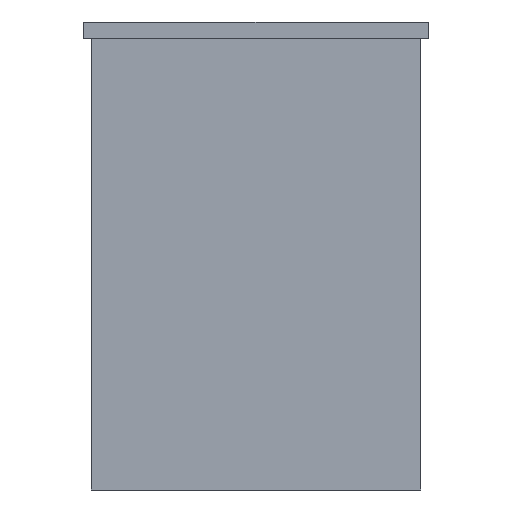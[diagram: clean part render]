
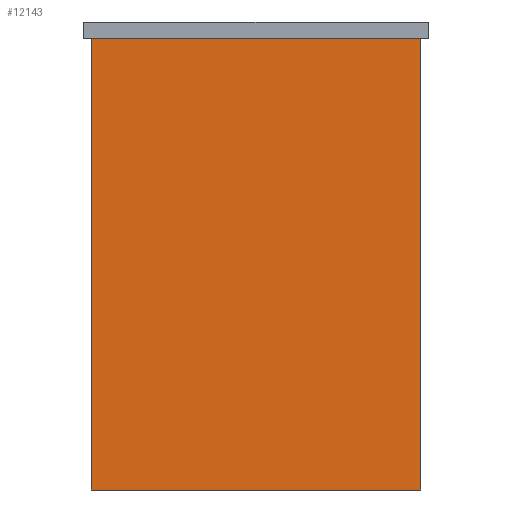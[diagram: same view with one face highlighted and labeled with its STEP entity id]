
A CAD part, front view. The second image highlights one B-rep face of the part: STEP entity #12143.
In plain terms, the highlighted planar face has unit normal (0, -1, 0).
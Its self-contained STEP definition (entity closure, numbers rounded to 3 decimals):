
#324 = CARTESIAN_POINT ( 'NONE',  ( -45.25, -21.6, -4.5 ) ) ;
#494 = VECTOR ( 'NONE', #11117, 1000. ) ;
#571 = CARTESIAN_POINT ( 'NONE',  ( -45.25, -21.6, -128.5 ) ) ;
#957 = DIRECTION ( 'NONE',  ( 0., 0., 1. ) ) ;
#1538 = DIRECTION ( 'NONE',  ( 0., -1., 0. ) ) ;
#2423 = LINE ( 'NONE', #324, #8642 ) ;
#2761 = VERTEX_POINT ( 'NONE', #7159 ) ;
#3343 = CARTESIAN_POINT ( 'NONE',  ( 45.25, -21.6, -4.5 ) ) ;
#3492 = EDGE_CURVE ( 'NONE', #16027, #4249, #12618, .T. ) ;
#3517 = DIRECTION ( 'NONE',  ( 0., 0., 1. ) ) ;
#3736 = CARTESIAN_POINT ( 'NONE',  ( -45.25, -21.6, -128.5 ) ) ;
#3817 = LINE ( 'NONE', #12295, #494 ) ;
#4222 = FACE_OUTER_BOUND ( 'NONE', #7893, .T. ) ;
#4249 = VERTEX_POINT ( 'NONE', #3343 ) ;
#4696 = EDGE_CURVE ( 'NONE', #15078, #2761, #10874, .T. ) ;
#6194 = EDGE_CURVE ( 'NONE', #15078, #16027, #3817, .T. ) ;
#7159 = CARTESIAN_POINT ( 'NONE',  ( -45.25, -21.6, -4.5 ) ) ;
#7893 = EDGE_LOOP ( 'NONE', ( #9218, #15567, #12285, #11690 ) ) ;
#8554 = VECTOR ( 'NONE', #957, 1000. ) ;
#8642 = VECTOR ( 'NONE', #11526, 1000. ) ;
#8972 = PLANE ( 'NONE',  #12317 ) ;
#9218 = ORIENTED_EDGE ( 'NONE', *, *, #3492, .T. ) ;
#10216 = DIRECTION ( 'NONE',  ( 0., 0., -1. ) ) ;
#10425 = CARTESIAN_POINT ( 'NONE',  ( 45.25, -21.6, -128.5 ) ) ;
#10874 = LINE ( 'NONE', #3736, #13744 ) ;
#11117 = DIRECTION ( 'NONE',  ( 1., 0., 0. ) ) ;
#11526 = DIRECTION ( 'NONE',  ( 1., 0., 0. ) ) ;
#11690 = ORIENTED_EDGE ( 'NONE', *, *, #6194, .T. ) ;
#12143 = ADVANCED_FACE ( 'NONE', ( #4222 ), #8972, .T. ) ;
#12285 = ORIENTED_EDGE ( 'NONE', *, *, #4696, .F. ) ;
#12295 = CARTESIAN_POINT ( 'NONE',  ( -45.25, -21.6, -128.5 ) ) ;
#12317 = AXIS2_PLACEMENT_3D ( 'NONE', #12652, #1538, #10216 ) ;
#12618 = LINE ( 'NONE', #15800, #8554 ) ;
#12652 = CARTESIAN_POINT ( 'NONE',  ( -45.25, -21.6, -128.5 ) ) ;
#13744 = VECTOR ( 'NONE', #3517, 1000. ) ;
#14316 = EDGE_CURVE ( 'NONE', #2761, #4249, #2423, .T. ) ;
#15078 = VERTEX_POINT ( 'NONE', #571 ) ;
#15567 = ORIENTED_EDGE ( 'NONE', *, *, #14316, .F. ) ;
#15800 = CARTESIAN_POINT ( 'NONE',  ( 45.25, -21.6, -128.5 ) ) ;
#16027 = VERTEX_POINT ( 'NONE', #10425 ) ;
